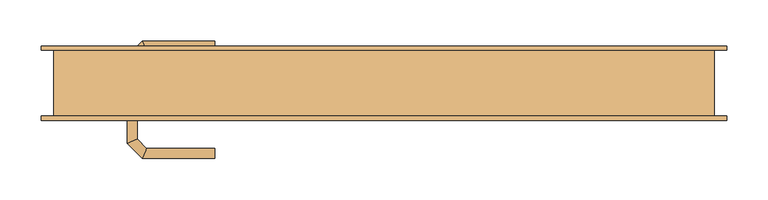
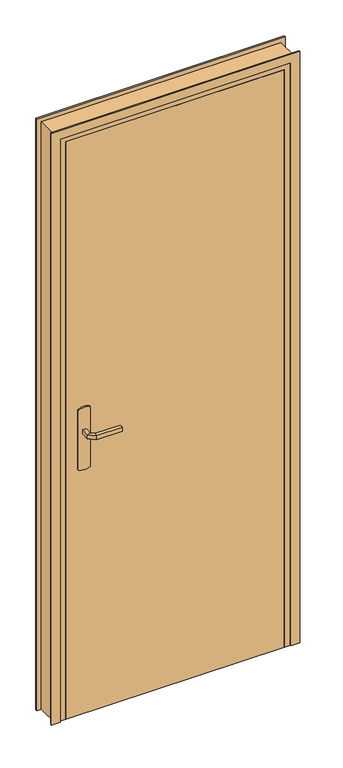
"""IFC4 building model written with IfcOpenShell, lengths in millimetres: door geometry, @_Int. Simple : @_PP (0.73m x 2.04m)."""

from ifc_helpers import new_model, si_unit, point, frame, frame_2d, origin, origin_with_axes, place, context, project, spatial, polyline, circle_curve, ellipse_curve, trimmed, segment, composite_curve, outline, extrude, faceted_brep, source, transform, mapped, element, save
from ifc_brep_helpers import plane_surface, cylinder_surface, advanced_brep


def door_9741cc86(model_context):
    return source(origin(), model_context, "Body", "SolidModel", [
        extrude(outline(composite_curve([segment(trimmed(circle_curve(frame_2d((904.6410162, -340.0)), 40.0), [point((870.0, -360.0))], [point((870.0, -320.0))], False, "CARTESIAN"), True, "CONTINUOUS"), segment(polyline([(870.0, -320.0), (1080.0, -320.0)]), True, "CONTINUOUS"), segment(trimmed(circle_curve(frame_2d((1045.3589838, -340.0)), 40.0), [point((1080.0, -320.0))], [point((1080.0, -360.0))], False, "CARTESIAN"), True, "CONTINUOUS"), segment(polyline([(1080.0, -360.0), (870.0, -360.0)]), True, "CONTINUOUS")], self_intersect=False)), frame((0.0, -45.0, 0.0), z_axis=(0.0, 1.0, 0.0), x_axis=(0.0, 0.0, 1.0)), (0.0, 0.0, 1.0), 5.0),
        extrude(outline(composite_curve([segment(trimmed(circle_curve(frame_2d((1045.3589838, -340.0)), 40.0), [point((1080.0, -320.0))], [point((1080.0, -360.0))], False, "CARTESIAN"), True, "CONTINUOUS"), segment(polyline([(1080.0, -360.0), (870.0, -360.0)]), True, "CONTINUOUS"), segment(trimmed(circle_curve(frame_2d((904.6410162, -340.0)), 40.0), [point((870.0, -360.0))], [point((870.0, -320.0))], False, "CARTESIAN"), True, "CONTINUOUS"), segment(polyline([(870.0, -320.0), (1080.0, -320.0)]), True, "CONTINUOUS")], self_intersect=False)), frame((0.0, 0.0, 0.0), z_axis=(0.0, 1.0, 0.0), x_axis=(0.0, 0.0, 1.0)), (0.0, 0.0, 1.0), 5.0),
        advanced_brep(
        [(-346.0, -45.0, 1007.0), (-334.0, -45.0, 1007.0), (-334.0, -45.0, 993.0), (-346.0, -45.0, 993.0), (-346.0, -72.6509507, 1007.0), (-334.0, -67.680388, 1007.0), (-334.0, -67.680388, 993.0), (-346.0, -72.6509507, 993.0), (-327.62279, -91.0281607, 1007.0), (-322.6522273, -79.0281607, 1007.0), (-322.6522273, -79.0281607, 993.0), (-327.62279, -91.0281607, 993.0), (-239.9813594, -91.0281607, 1007.0), (-239.9813594, -91.0281607, 993.0), (-239.9813594, -79.0281607, 993.0), (-239.9813594, -79.0281607, 1007.0)],
        [
            (0, 1, circle_curve(frame((-340.0, -45.0, 986.9542278), z_axis=(0.0, 1.0, 0.0), x_axis=(1.0, 0.0, 0.0)), 20.9244589)),
            (1, 2),
            (2, 3, circle_curve(frame((-340.0, -45.0, 1013.0457722), z_axis=(0.0, 1.0, 0.0), x_axis=(1.0, 0.0, 0.0)), 20.9244589)),
            (3, 0),
            (0, 4),
            (4, 5, ellipse_curve(frame((-340.0, -70.1656693, 986.9542278), z_axis=(-0.3826834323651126, 0.9238795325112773, 0.0), x_axis=(0.9238795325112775, 0.38268343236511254, 0.0)), 22.6484711, 20.9244589)),
            (5, 1),
            (5, 6),
            (6, 2),
            (6, 7, ellipse_curve(frame((-340.0, -70.1656693, 1013.0457722), z_axis=(-0.3826834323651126, 0.9238795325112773, 0.0), x_axis=(0.9238795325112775, 0.38268343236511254, 0.0)), 22.6484711, 20.9244589)),
            (7, 3),
            (7, 4),
            (4, 8),
            (8, 9, ellipse_curve(frame((-325.1375086, -85.0281607, 986.9542278), z_axis=(-0.9238795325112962, 0.38268343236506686, 0.0), x_axis=(0.3826834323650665, 0.9238795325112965, 0.0)), 22.6484711, 20.9244589)),
            (9, 5),
            (9, 10),
            (10, 6),
            (10, 11, ellipse_curve(frame((-325.1375086, -85.0281607, 1013.0457722), z_axis=(-0.9238795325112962, 0.38268343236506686, 0.0), x_axis=(0.3826834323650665, 0.9238795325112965, 0.0)), 22.6484711, 20.9244589)),
            (11, 7),
            (11, 8),
            (12, 13),
            (13, 14, circle_curve(frame((-239.9813594, -85.0281607, 1013.0457722), z_axis=(1.0, 0.0, 0.0), x_axis=(0.0, 1.0, 0.0)), 20.9244589)),
            (14, 15),
            (15, 12, circle_curve(frame((-239.9813594, -85.0281607, 986.9542278), z_axis=(1.0, 0.0, 0.0), x_axis=(0.0, 1.0, 0.0)), 20.9244589)),
            (8, 12),
            (15, 9),
            (14, 10),
            (13, 11),
        ],
        [
            plane_surface(frame((-349.2195445, -45.0, 1000.0), z_axis=(0.0, 1.0, 0.0), x_axis=(0.0, 0.0, -1.0))),
            cylinder_surface(frame((-340.0, -45.0, 986.9542278), z_axis=(0.0, 1.0, 0.0), x_axis=(1.0, 0.0, 0.0)), 20.9244589),
            plane_surface(frame((-334.0, -45.0, 1007.0), z_axis=(1.0, 0.0, 0.0), x_axis=(0.0, -1.0, 0.0))),
            cylinder_surface(frame((-340.0, -45.0, 1013.0457722), z_axis=(0.0, 1.0, 0.0), x_axis=(1.0, 0.0, 0.0)), 20.9244589),
            plane_surface(frame((-346.0, -45.0, 993.0), z_axis=(-1.0, 0.0, 0.0), x_axis=(0.0, -1.0, 0.0))),
            cylinder_surface(frame((-340.0, -70.1656693, 986.9542278), z_axis=(-0.7071067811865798, 0.7071067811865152, 0.0), x_axis=(0.7071067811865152, 0.7071067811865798, 0.0)), 20.9244589),
            plane_surface(frame((-334.0, -67.680388, 1007.0), z_axis=(0.7071067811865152, 0.7071067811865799, 0.0), x_axis=(0.7071067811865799, -0.7071067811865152, 0.0))),
            cylinder_surface(frame((-340.0, -70.1656693, 1013.0457722), z_axis=(-0.7071067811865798, 0.7071067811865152, 0.0), x_axis=(0.7071067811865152, 0.7071067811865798, 0.0)), 20.9244589),
            plane_surface(frame((-346.0, -72.6509507, 993.0), z_axis=(-0.7071067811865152, -0.7071067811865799, 0.0), x_axis=(0.7071067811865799, -0.7071067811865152, 0.0))),
            plane_surface(frame((-239.9813594, -85.0281607, 990.7804555), z_axis=(1.0, 0.0, 0.0), x_axis=(0.0, 1.0, 0.0))),
            cylinder_surface(frame((-325.1375086, -85.0281607, 986.9542278), z_axis=(-1.0, 0.0, 0.0), x_axis=(0.0, 1.0, 0.0)), 20.9244589),
            plane_surface(frame((-322.6522273, -79.0281607, 1007.0), z_axis=(0.0, 1.0, 0.0), x_axis=(1.0, 0.0, 0.0))),
            cylinder_surface(frame((-325.1375086, -85.0281607, 1013.0457722), z_axis=(-1.0, 0.0, 0.0), x_axis=(0.0, 1.0, 0.0)), 20.9244589),
            plane_surface(frame((-327.62279, -91.0281607, 993.0), z_axis=(0.0, -1.0, 0.0), x_axis=(1.0, 0.0, 0.0))),
        ],
        [
            (0, [[1, 2, 3, 4]]),
            (1, [[-1, 5, 6, 7]]),
            (2, [[-2, -7, 8, 9]]),
            (3, [[-3, -9, 10, 11]]),
            (4, [[-4, -11, 12, -5]]),
            (5, [[-6, 13, 14, 15]]),
            (6, [[-8, -15, 16, 17]]),
            (7, [[-10, -17, 18, 19]]),
            (8, [[-12, -19, 20, -13]]),
            (9, [[21, 22, 23, 24]]),
            (10, [[-14, 25, -24, 26]]),
            (11, [[-16, -26, -23, 27]]),
            (12, [[-18, -27, -22, 28]]),
            (13, [[-20, -28, -21, -25]]),
        ],
    ),
        advanced_brep(
        [(-334.0, 5.0, 993.0), (-334.0, 5.0, 1007.0), (-346.0, 5.0, 1007.0), (-346.0, 5.0, 993.0), (-334.0, 27.4852045, 993.0), (-334.0, 27.4852045, 1007.0), (-346.0, 32.4557673, 1007.0), (-346.0, 32.4557673, 993.0), (-322.5147186, 38.9704859, 993.0), (-322.5147186, 38.9704859, 1007.0), (-327.4852814, 50.9704859, 1007.0), (-327.4852814, 50.9704859, 993.0), (-239.9542163, 38.9704859, 993.0), (-239.9542163, 50.9704859, 993.0), (-239.9542163, 50.9704859, 1007.0), (-239.9542163, 38.9704859, 1007.0)],
        [
            (0, 1),
            (1, 2, circle_curve(frame((-340.0, 5.0, 986.9542278), z_axis=(0.0, -1.0, 0.0), x_axis=(-1.0, 0.0, 0.0)), 20.9244589)),
            (2, 3),
            (3, 0, circle_curve(frame((-340.0, 5.0, 1013.0457722), z_axis=(0.0, -1.0, 0.0), x_axis=(-1.0, 0.0, 0.0)), 20.9244589)),
            (0, 4),
            (4, 5),
            (5, 1),
            (5, 6, ellipse_curve(frame((-340.0, 29.9704859, 986.9542278), z_axis=(-0.3826834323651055, -0.9238795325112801, 0.0), x_axis=(0.9238795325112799, -0.3826834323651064, 0.0)), 22.6484711, 20.9244589)),
            (6, 2),
            (6, 7),
            (7, 3),
            (7, 4, ellipse_curve(frame((-340.0, 29.9704859, 1013.0457722), z_axis=(-0.3826834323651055, -0.9238795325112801, 0.0), x_axis=(0.9238795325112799, -0.3826834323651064, 0.0)), 22.6484711, 20.9244589)),
            (4, 8),
            (8, 9),
            (9, 5),
            (9, 10, ellipse_curve(frame((-325.0, 44.9704859, 986.9542278), z_axis=(-0.9238795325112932, -0.382683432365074, 0.0), x_axis=(0.3826834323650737, -0.9238795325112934, 0.0)), 22.6484711, 20.9244589)),
            (10, 6),
            (10, 11),
            (11, 7),
            (11, 8, ellipse_curve(frame((-325.0, 44.9704859, 1013.0457722), z_axis=(-0.9238795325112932, -0.382683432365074, 0.0), x_axis=(0.3826834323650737, -0.9238795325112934, 0.0)), 22.6484711, 20.9244589)),
            (12, 13, circle_curve(frame((-239.9542163, 44.9704859, 1013.0457722), z_axis=(1.0, 0.0, 0.0), x_axis=(0.0, 1.0, 0.0)), 20.9244589)),
            (13, 14),
            (14, 15, circle_curve(frame((-239.9542163, 44.9704859, 986.9542278), z_axis=(1.0, 0.0, 0.0), x_axis=(0.0, 1.0, 0.0)), 20.9244589)),
            (15, 12),
            (8, 12),
            (15, 9),
            (14, 10),
            (13, 11),
        ],
        [
            plane_surface(frame((-349.2195445, 5.0, 1000.0), z_axis=(0.0, -1.0, 0.0), x_axis=(0.0, 0.0, 1.0))),
            plane_surface(frame((-334.0, 5.0, 993.0), z_axis=(1.0, 0.0, 0.0), x_axis=(0.0, 1.0, 0.0))),
            cylinder_surface(frame((-340.0, 5.0, 986.9542278), z_axis=(0.0, -1.0, 0.0), x_axis=(-1.0, 0.0, 0.0)), 20.9244589),
            plane_surface(frame((-346.0, 5.0, 1007.0), z_axis=(-1.0, 0.0, 0.0), x_axis=(0.0, 1.0, 0.0))),
            cylinder_surface(frame((-340.0, 5.0, 1013.0457722), z_axis=(0.0, -1.0, 0.0), x_axis=(-1.0, 0.0, 0.0)), 20.9244589),
            plane_surface(frame((-334.0, 27.4852045, 993.0), z_axis=(0.7071067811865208, -0.7071067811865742, 0.0), x_axis=(0.7071067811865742, 0.7071067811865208, 0.0))),
            cylinder_surface(frame((-340.0, 29.9704859, 986.9542278), z_axis=(-0.7071067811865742, -0.7071067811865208, 0.0), x_axis=(-0.7071067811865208, 0.7071067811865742, 0.0)), 20.9244589),
            plane_surface(frame((-346.0, 32.4557673, 1007.0), z_axis=(-0.7071067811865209, 0.7071067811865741, 0.0), x_axis=(0.7071067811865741, 0.7071067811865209, 0.0))),
            cylinder_surface(frame((-340.0, 29.9704859, 1013.0457722), z_axis=(-0.7071067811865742, -0.7071067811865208, 0.0), x_axis=(-0.7071067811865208, 0.7071067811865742, 0.0)), 20.9244589),
            plane_surface(frame((-239.9542163, 44.9704859, 990.7804555), z_axis=(1.0, 0.0, 0.0), x_axis=(0.0, 1.0, 0.0))),
            plane_surface(frame((-322.5147186, 38.9704859, 993.0), z_axis=(0.0, -1.0, 0.0), x_axis=(1.0, 0.0, 0.0))),
            cylinder_surface(frame((-325.0, 44.9704859, 986.9542278), z_axis=(-1.0, 0.0, 0.0), x_axis=(0.0, 1.0, 0.0)), 20.9244589),
            plane_surface(frame((-327.4852814, 50.9704859, 1007.0), z_axis=(0.0, 1.0, 0.0), x_axis=(1.0, 0.0, 0.0))),
            cylinder_surface(frame((-325.0, 44.9704859, 1013.0457722), z_axis=(-1.0, 0.0, 0.0), x_axis=(0.0, 1.0, 0.0)), 20.9244589),
        ],
        [
            (0, [[1, 2, 3, 4]]),
            (1, [[-1, 5, 6, 7]]),
            (2, [[-2, -7, 8, 9]]),
            (3, [[-3, -9, 10, 11]]),
            (4, [[-4, -11, 12, -5]]),
            (5, [[-6, 13, 14, 15]]),
            (6, [[-8, -15, 16, 17]]),
            (7, [[-10, -17, 18, 19]]),
            (8, [[-12, -19, 20, -13]]),
            (9, [[21, 22, 23, 24]]),
            (10, [[-14, 25, -24, 26]]),
            (11, [[-16, -26, -23, 27]]),
            (12, [[-18, -27, -22, 28]]),
            (13, [[-20, -28, -21, -25]]),
        ],
    ),
        extrude(outline(polyline([(-400.0, 0.0), (330.0, 0.0), (330.0, -40.0), (-400.0, -40.0), (-400.0, 0.0)])), origin_with_axes(), (0.0, 0.0, 1.0), 2040.0),
        faceted_brep([(-435.0, -40.0, 0.0), (-435.0, 40.0, 0.0), (-385.0, 40.0, 0.0), (-385.0, 0.0, 0.0), (-400.0, 0.0, 0.0), (-400.0, -40.0, 0.0), (-435.0, -40.0, 2075.0), (-435.0, 40.0, 2075.0), (365.0, 40.0, 2075.0), (365.0, 40.0, 0.0), (315.0, 40.0, 0.0), (315.0, 40.0, 2025.0), (-385.0, 40.0, 2025.0), (-385.0, 0.0, 2025.0), (315.0, 0.0, 2025.0), (315.0, 0.0, 0.0), (330.0, 0.0, 0.0), (330.0, 0.0, 2040.0), (-400.0, 0.0, 2040.0), (-400.0, -40.0, 2040.0), (330.0, -40.0, 2040.0), (330.0, -40.0, 0.0), (365.0, -40.0, 0.0), (365.0, -40.0, 2075.0)], [[[0, 1, 2, 3, 4, 5]], [[1, 0, 6, 7]], [[2, 1, 7, 8, 9, 10, 11, 12]], [[3, 2, 12, 13]], [[4, 3, 13, 14, 15, 16, 17, 18]], [[5, 4, 18, 19]], [[0, 5, 19, 20, 21, 22, 23, 6]], [[8, 23, 22, 9]], [[22, 21, 16, 15, 10, 9]], [[14, 11, 10, 15]], [[20, 17, 16, 21]], [[7, 6, 23, 8]], [[13, 12, 11, 14]], [[19, 18, 17, 20]]]),
        extrude(outline(polyline([(0.0, -450.0), (0.0, -420.0), (2060.0, -420.0), (2060.0, 350.0), (0.0, 350.0), (0.0, 380.0), (2090.0, 380.0), (2090.0, -450.0), (0.0, -450.0)])), frame((0.0, -45.0, 0.0), z_axis=(0.0, 1.0, 0.0), x_axis=(0.0, 0.0, 1.0)), (0.0, 0.0, 1.0), 5.0),
        extrude(outline(polyline([(0.0, -450.0), (0.0, -420.0), (2060.0, -420.0), (2060.0, 350.0), (0.0, 350.0), (0.0, 380.0), (2090.0, 380.0), (2090.0, -450.0), (0.0, -450.0)])), frame((0.0, 40.0, 0.0), z_axis=(0.0, 1.0, 0.0), x_axis=(0.0, 0.0, 1.0)), (0.0, 0.0, 1.0), 5.0),
    ])


if __name__ == "__main__":
    model = new_model("IFC4")
    model_context = context("Model", 3, world=origin())
    ifc_project = project(units=[si_unit("LENGTHUNIT", "METRE", prefix="MILLI")], contexts=[model_context])
    site = spatial("IfcSite", under=ifc_project)
    building = spatial("IfcBuilding", under=site)
    placement = place(None, origin())
    door_shape = door_9741cc86(model_context)
    element("IfcDoor", 1, ObjectType="@_Int. Simple : @_PP (0.73m x 2.04m)", at=placement, inside=building, context=model_context, shape_type="MappedRepresentation", body=[
        mapped(door_shape, transform((0.0, 0.0, 0.0), x_axis=(1.0, 0.0, 0.0), y_axis=(0.0, 1.0, 0.0), z_axis=(0.0, 0.0, 1.0))),
    ])
    save(model, "model.ifc")
